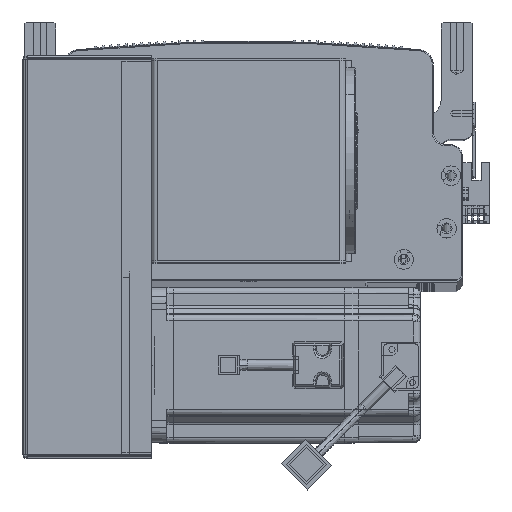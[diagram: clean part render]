
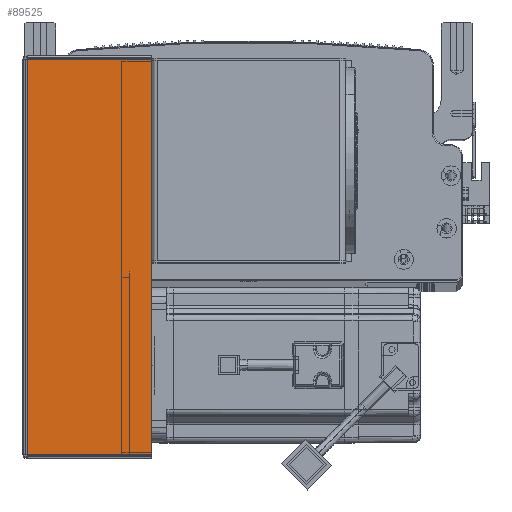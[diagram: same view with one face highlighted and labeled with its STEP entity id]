
A CAD part, top view. The second image highlights one B-rep face of the part: STEP entity #89525.
In plain terms, the highlighted planar face has unit normal (0, 0, 1) as drawn and (0, -1, 0) by its records, which use the part's own axes.
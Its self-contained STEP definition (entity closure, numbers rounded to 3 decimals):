
#1162 = LINE ( 'NONE', #19075, #41850 ) ;
#2183 = ORIENTED_EDGE ( 'NONE', *, *, #80716, .F. ) ;
#4132 = DIRECTION ( 'NONE',  ( 0., 0., 1. ) ) ;
#4517 = LINE ( 'NONE', #17301, #61646 ) ;
#4965 = EDGE_CURVE ( 'NONE', #50348, #84738, #4517, .T. ) ;
#10215 = CARTESIAN_POINT ( 'NONE',  ( 64.5, -1.5, -0.707 ) ) ;
#10636 = LINE ( 'NONE', #78357, #75838 ) ;
#13952 = ORIENTED_EDGE ( 'NONE', *, *, #29318, .T. ) ;
#17301 = CARTESIAN_POINT ( 'NONE',  ( 0., -1.5, -0.707 ) ) ;
#18877 = AXIS2_PLACEMENT_3D ( 'NONE', #38715, #46173, #23517 ) ;
#19075 = CARTESIAN_POINT ( 'NONE',  ( 0., -1.5, -203.293 ) ) ;
#21394 = VERTEX_POINT ( 'NONE', #54157 ) ;
#22805 = ORIENTED_EDGE ( 'NONE', *, *, #4965, .F. ) ;
#23517 = DIRECTION ( 'NONE',  ( -1., 0., 0. ) ) ;
#29318 = EDGE_CURVE ( 'NONE', #21394, #84738, #69833, .T. ) ;
#37817 = EDGE_CURVE ( 'NONE', #58755, #21394, #1162, .T. ) ;
#38715 = CARTESIAN_POINT ( 'NONE',  ( 0., -1.5, 0. ) ) ;
#41767 = ORIENTED_EDGE ( 'NONE', *, *, #37817, .T. ) ;
#41850 = VECTOR ( 'NONE', #63302, 1000. ) ;
#42578 = DIRECTION ( 'NONE',  ( 0., 0., 1. ) ) ;
#46173 = DIRECTION ( 'NONE',  ( 0., 1., 0. ) ) ;
#49508 = FACE_OUTER_BOUND ( 'NONE', #61502, .T. ) ;
#50348 = VERTEX_POINT ( 'NONE', #51942 ) ;
#51942 = CARTESIAN_POINT ( 'NONE',  ( 0.737, -1.5, -0.707 ) ) ;
#54157 = CARTESIAN_POINT ( 'NONE',  ( 64.5, -1.5, -203.293 ) ) ;
#58755 = VERTEX_POINT ( 'NONE', #67889 ) ;
#60505 = VECTOR ( 'NONE', #42578, 1000. ) ;
#61502 = EDGE_LOOP ( 'NONE', ( #2183, #41767, #13952, #22805 ) ) ;
#61646 = VECTOR ( 'NONE', #84249, 1000. ) ;
#63302 = DIRECTION ( 'NONE',  ( 1., 0., 0. ) ) ;
#67889 = CARTESIAN_POINT ( 'NONE',  ( 0.737, -1.5, -203.293 ) ) ;
#69833 = LINE ( 'NONE', #80659, #60505 ) ;
#75838 = VECTOR ( 'NONE', #4132, 1000. ) ;
#76143 = PLANE ( 'NONE',  #18877 ) ;
#78357 = CARTESIAN_POINT ( 'NONE',  ( 0.737, -1.5, 0. ) ) ;
#80659 = CARTESIAN_POINT ( 'NONE',  ( 64.5, -1.5, 0. ) ) ;
#80716 = EDGE_CURVE ( 'NONE', #58755, #50348, #10636, .T. ) ;
#84249 = DIRECTION ( 'NONE',  ( 1., 0., 0. ) ) ;
#84738 = VERTEX_POINT ( 'NONE', #10215 ) ;
#89525 = ADVANCED_FACE ( 'NONE', ( #49508 ), #76143, .F. ) ;
